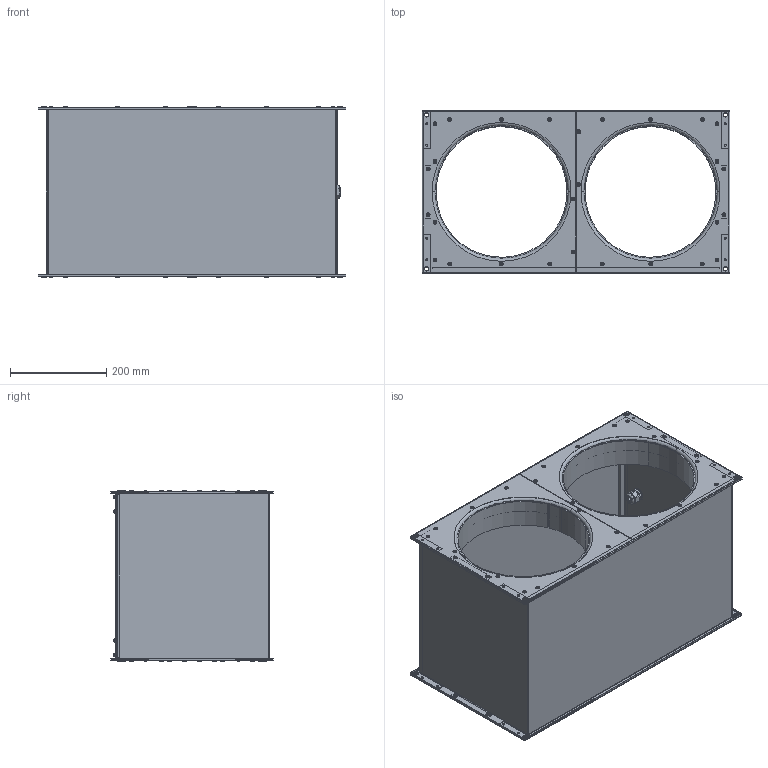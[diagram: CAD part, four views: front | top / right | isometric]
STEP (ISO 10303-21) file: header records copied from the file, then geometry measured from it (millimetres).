
FILE_DESCRIPTION (( 'STEP AP203' ), '1' );
FILE_NAME ('136743-00_EMKI6030EC21.STEP', '2016-04-20T05:09:54', ( '' ), ( '' ), 'SwSTEP 2.0', 'SolidWorks 2012', '' );
FILE_SCHEMA (( 'CONFIG_CONTROL_DESIGN' ));
Length unit declared in the file: millimetre
Products named in the file (1): 136743-00_EMKI6030EC21
Bounding box: 639.5 x 338 x 355.8 mm (x, y, z)
Surface area: 2058487.1 mm2 (no closed solid volume)
Topology: 0 solids, 130 shells, 771 faces, 2594 edges, 1884 vertices
Faces by surface type: cylinder 370, plane 226, torus 160, bspline 8, cone 7
Entity records: 30066 total; most frequent: CARTESIAN_POINT 7008, DIRECTION 5330, ORIENTED_EDGE 3736, EDGE_CURVE 2594, AXIS2_PLACEMENT_3D 2184, VERTEX_POINT 1884, CIRCLE 1420, EDGE_LOOP 1011
